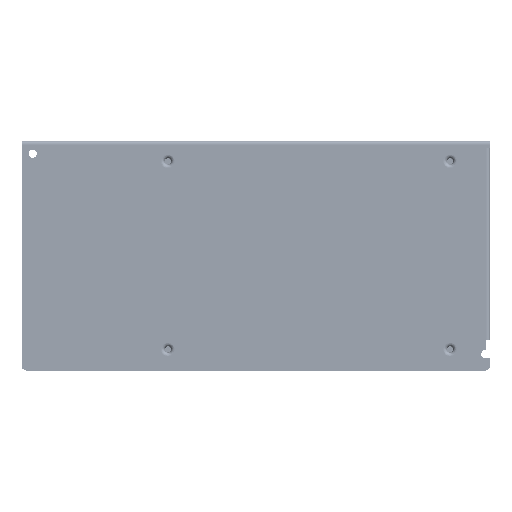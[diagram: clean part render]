
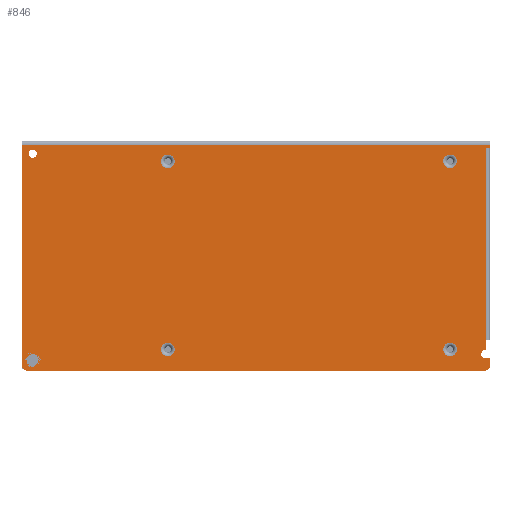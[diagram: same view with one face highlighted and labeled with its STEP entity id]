
A CAD part, front view. The second image highlights one B-rep face of the part: STEP entity #846.
In plain terms, the highlighted planar face has unit normal (0, -1, 0).
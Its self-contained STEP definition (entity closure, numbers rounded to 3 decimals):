
#666=CARTESIAN_POINT('',(0.0,-1.5,0.0));
#667=DIRECTION('',(0.0,1.0,0.0));
#668=DIRECTION('',(0.0,0.0,1.0));
#669=AXIS2_PLACEMENT_3D('',#666,#667,#668);
#670=PLANE('',#669);
#671=CARTESIAN_POINT('',(-99.5,-1.5,-46.875));
#672=VERTEX_POINT('',#671);
#673=CARTESIAN_POINT('',(-97.5,-1.5,-48.875));
#674=VERTEX_POINT('',#673);
#675=CARTESIAN_POINT('',(-97.5,-1.5,-46.875));
#676=DIRECTION('',(0.0,-1.0,0.0));
#677=DIRECTION('',(-1.0,0.0,0.0));
#678=AXIS2_PLACEMENT_3D('',#675,#676,#677);
#679=CIRCLE('',#678,2.0);
#680=EDGE_CURVE('',#672,#674,#679,.T.);
#681=ORIENTED_EDGE('',*,*,#680,.T.);
#682=CARTESIAN_POINT('',(97.5,-1.5,-48.875));
#683=VERTEX_POINT('',#682);
#684=CARTESIAN_POINT('',(97.5,-1.5,-48.875));
#685=DIRECTION('',(-1.0,0.0,0.0));
#686=VECTOR('',#685,195.0);
#687=LINE('',#684,#686);
#688=EDGE_CURVE('',#683,#674,#687,.T.);
#689=ORIENTED_EDGE('',*,*,#688,.F.);
#690=CARTESIAN_POINT('',(99.5,-1.5,-46.875));
#691=VERTEX_POINT('',#690);
#692=CARTESIAN_POINT('',(97.5,-1.5,-46.875));
#693=DIRECTION('',(0.0,-1.0,0.0));
#694=DIRECTION('',(0.0,0.0,-1.0));
#695=AXIS2_PLACEMENT_3D('',#692,#693,#694);
#696=CIRCLE('',#695,2.0);
#697=EDGE_CURVE('',#683,#691,#696,.T.);
#698=ORIENTED_EDGE('',*,*,#697,.T.);
#699=CARTESIAN_POINT('',(99.5,-1.5,-43.625));
#700=VERTEX_POINT('',#699);
#701=CARTESIAN_POINT('',(99.5,-1.5,-43.625));
#702=DIRECTION('',(0.0,0.0,-1.0));
#703=VECTOR('',#702,3.25);
#704=LINE('',#701,#703);
#705=EDGE_CURVE('',#700,#691,#704,.T.);
#706=ORIENTED_EDGE('',*,*,#705,.F.);
#707=CARTESIAN_POINT('',(97.5,-1.5,-43.625));
#708=VERTEX_POINT('',#707);
#709=CARTESIAN_POINT('',(99.5,-1.5,-43.625));
#710=DIRECTION('',(-1.0,0.0,0.0));
#711=VECTOR('',#710,2.);
#712=LINE('',#709,#711);
#713=EDGE_CURVE('',#700,#708,#712,.T.);
#714=ORIENTED_EDGE('',*,*,#713,.T.);
#715=CARTESIAN_POINT('',(97.5,-1.5,-40.125));
#716=VERTEX_POINT('',#715);
#717=CARTESIAN_POINT('',(97.5,-1.5,-41.875));
#718=DIRECTION('',(0.0,1.0,0.0));
#719=DIRECTION('',(0.0,0.0,-1.0));
#720=AXIS2_PLACEMENT_3D('',#717,#718,#719);
#721=CIRCLE('',#720,1.75);
#722=EDGE_CURVE('',#708,#716,#721,.T.);
#723=ORIENTED_EDGE('',*,*,#722,.T.);
#724=CARTESIAN_POINT('',(97.9,-1.5,-40.125));
#725=VERTEX_POINT('',#724);
#726=CARTESIAN_POINT('',(97.9,-1.5,-40.125));
#727=DIRECTION('',(-1.0,0.0,0.0));
#728=VECTOR('',#727,0.4);
#729=LINE('',#726,#728);
#730=EDGE_CURVE('',#725,#716,#729,.T.);
#731=ORIENTED_EDGE('',*,*,#730,.F.);
#732=CARTESIAN_POINT('',(97.9,-1.5,-35.875));
#733=VERTEX_POINT('',#732);
#734=CARTESIAN_POINT('',(97.9,-1.5,-35.875));
#735=DIRECTION('',(0.0,0.0,-1.0));
#736=VECTOR('',#735,4.25);
#737=LINE('',#734,#736);
#738=EDGE_CURVE('',#733,#725,#737,.T.);
#739=ORIENTED_EDGE('',*,*,#738,.F.);
#740=CARTESIAN_POINT('',(97.9,-1.5,45.775));
#741=VERTEX_POINT('',#740);
#742=CARTESIAN_POINT('',(97.9,-1.5,45.775));
#743=DIRECTION('',(0.0,0.0,-1.0));
#744=VECTOR('',#743,81.65);
#745=LINE('',#742,#744);
#746=EDGE_CURVE('',#741,#733,#745,.T.);
#747=ORIENTED_EDGE('',*,*,#746,.F.);
#748=CARTESIAN_POINT('',(99.5,-1.5,45.775));
#749=VERTEX_POINT('',#748);
#750=CARTESIAN_POINT('',(97.9,-1.5,45.775));
#751=DIRECTION('',(1.0,0.0,0.0));
#752=VECTOR('',#751,1.6);
#753=LINE('',#750,#752);
#754=EDGE_CURVE('',#741,#749,#753,.T.);
#755=ORIENTED_EDGE('',*,*,#754,.T.);
#756=CARTESIAN_POINT('',(99.5,-1.5,47.275));
#757=VERTEX_POINT('',#756);
#758=CARTESIAN_POINT('',(99.5,-1.5,47.275));
#759=DIRECTION('',(0.0,0.0,-1.0));
#760=VECTOR('',#759,1.5);
#761=LINE('',#758,#760);
#762=EDGE_CURVE('',#757,#749,#761,.T.);
#763=ORIENTED_EDGE('',*,*,#762,.F.);
#764=CARTESIAN_POINT('',(-99.5,-1.5,47.275));
#765=VERTEX_POINT('',#764);
#766=CARTESIAN_POINT('',(-99.5,-1.5,47.275));
#767=DIRECTION('',(1.0,0.0,0.0));
#768=VECTOR('',#767,199.);
#769=LINE('',#766,#768);
#770=EDGE_CURVE('',#765,#757,#769,.T.);
#771=ORIENTED_EDGE('',*,*,#770,.F.);
#772=CARTESIAN_POINT('',(-99.5,-1.5,-46.875));
#773=DIRECTION('',(0.0,0.0,1.0));
#774=VECTOR('',#773,94.15);
#775=LINE('',#772,#774);
#776=EDGE_CURVE('',#672,#765,#775,.T.);
#777=ORIENTED_EDGE('',*,*,#776,.F.);
#778=EDGE_LOOP('',(#681,#689,#698,#706,#714,#723,#731,#739,#747,#755,#763,#771,#777));
#779=FACE_OUTER_BOUND('',#778,.T.);
#780=CARTESIAN_POINT('',(-95.0,-1.5,-41.875));
#781=VERTEX_POINT('',#780);
#782=CARTESIAN_POINT('',(-95.0,-1.5,-44.375));
#783=DIRECTION('',(0.0,1.0,0.0));
#784=DIRECTION('',(0.0,0.0,1.0));
#785=AXIS2_PLACEMENT_3D('',#782,#783,#784);
#786=CIRCLE('',#785,2.5);
#787=EDGE_CURVE('',#781,#781,#786,.T.);
#788=ORIENTED_EDGE('',*,*,#787,.T.);
#789=EDGE_LOOP('',(#788));
#790=FACE_BOUND('',#789,.T.);
#791=CARTESIAN_POINT('',(-37.5,-1.5,-42.775));
#792=VERTEX_POINT('',#791);
#793=CARTESIAN_POINT('',(-37.5,-1.5,-39.875));
#794=DIRECTION('',(0.0,-1.0,0.0));
#795=DIRECTION('',(0.0,0.0,1.0));
#796=AXIS2_PLACEMENT_3D('',#793,#794,#795);
#797=CIRCLE('',#796,2.9);
#798=EDGE_CURVE('',#792,#792,#797,.T.);
#799=ORIENTED_EDGE('',*,*,#798,.F.);
#800=EDGE_LOOP('',(#799));
#801=FACE_BOUND('',#800,.T.);
#802=CARTESIAN_POINT('',(-37.5,-1.5,37.225));
#803=VERTEX_POINT('',#802);
#804=CARTESIAN_POINT('',(-37.5,-1.5,40.125));
#805=DIRECTION('',(0.0,-1.0,0.0));
#806=DIRECTION('',(0.0,0.0,1.0));
#807=AXIS2_PLACEMENT_3D('',#804,#805,#806);
#808=CIRCLE('',#807,2.9);
#809=EDGE_CURVE('',#803,#803,#808,.T.);
#810=ORIENTED_EDGE('',*,*,#809,.F.);
#811=EDGE_LOOP('',(#810));
#812=FACE_BOUND('',#811,.T.);
#813=CARTESIAN_POINT('',(82.5,-1.5,-36.975));
#814=VERTEX_POINT('',#813);
#815=CARTESIAN_POINT('',(82.5,-1.5,-39.875));
#816=DIRECTION('',(0.0,-1.0,0.0));
#817=DIRECTION('',(0.0,0.0,-1.0));
#818=AXIS2_PLACEMENT_3D('',#815,#816,#817);
#819=CIRCLE('',#818,2.9);
#820=EDGE_CURVE('',#814,#814,#819,.T.);
#821=ORIENTED_EDGE('',*,*,#820,.F.);
#822=EDGE_LOOP('',(#821));
#823=FACE_BOUND('',#822,.T.);
#824=CARTESIAN_POINT('',(82.5,-1.5,43.025));
#825=VERTEX_POINT('',#824);
#826=CARTESIAN_POINT('',(82.5,-1.5,40.125));
#827=DIRECTION('',(0.0,-1.0,0.0));
#828=DIRECTION('',(0.0,0.0,-1.0));
#829=AXIS2_PLACEMENT_3D('',#826,#827,#828);
#830=CIRCLE('',#829,2.9);
#831=EDGE_CURVE('',#825,#825,#830,.T.);
#832=ORIENTED_EDGE('',*,*,#831,.F.);
#833=EDGE_LOOP('',(#832));
#834=FACE_BOUND('',#833,.T.);
#835=CARTESIAN_POINT('',(-95.0,-1.5,45.125));
#836=VERTEX_POINT('',#835);
#837=CARTESIAN_POINT('',(-95.0,-1.5,43.375));
#838=DIRECTION('',(0.0,1.0,0.0));
#839=DIRECTION('',(0.0,0.0,1.0));
#840=AXIS2_PLACEMENT_3D('',#837,#838,#839);
#841=CIRCLE('',#840,1.75);
#842=EDGE_CURVE('',#836,#836,#841,.T.);
#843=ORIENTED_EDGE('',*,*,#842,.T.);
#844=EDGE_LOOP('',(#843));
#845=FACE_BOUND('',#844,.T.);
#846=ADVANCED_FACE('',(#779,#790,#801,#812,#823,#834,#845),#670,.F.);
